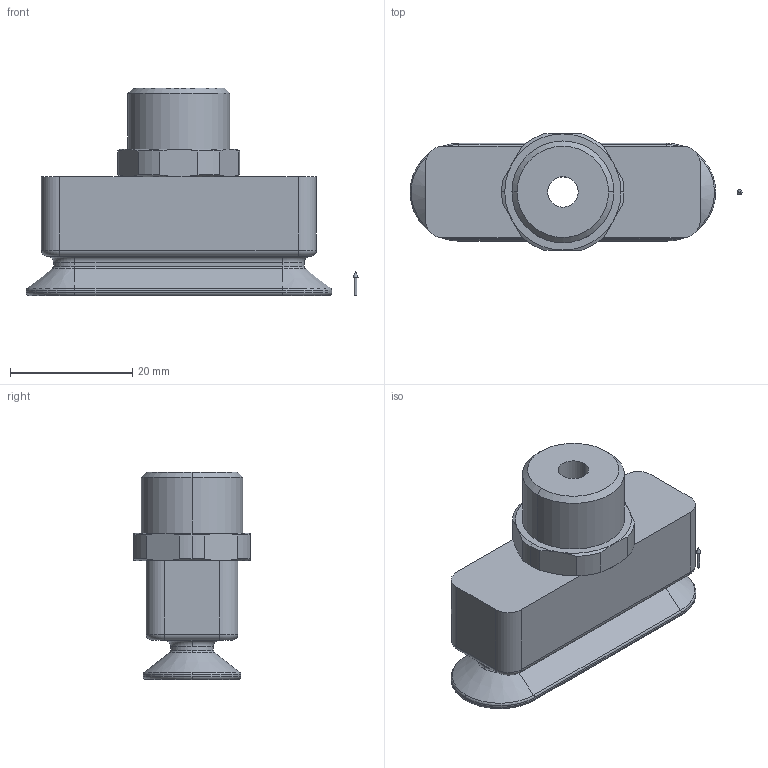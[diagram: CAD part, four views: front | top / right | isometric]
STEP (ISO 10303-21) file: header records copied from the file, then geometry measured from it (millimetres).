
FILE_DESCRIPTION(('STEP AP214'),'1');
FILE_NAME('10_01_05_00524.stp','2020-10-24T00:37:06',('TraceParts'),('TraceParts S.A.'),'Spatial InterOp 3D',' ',' ');
FILE_SCHEMA(('AUTOMOTIVE_DESIGN { 1 0 10303 214 1 1 1 1 }'));
Length unit declared in the file: millimetre
Products named in the file (1): 10_01_05_00524_1
Bounding box: 54.3 x 19 x 34 mm (x, y, z)
Volume: 12973.8 mm3; surface area: 5521.3 mm2
Topology: 2 solids, 2 shells, 121 faces, 274 edges, 157 vertices
Faces by surface type: cylinder 38, plane 33, cone 26, torus 24
Entity records: 4316 total; most frequent: DIRECTION 640, CARTESIAN_POINT 600, ORIENTED_EDGE 544, EDGE_CURVE 272, AXIS2_PLACEMENT_3D 269, VERTEX_POINT 157, CIRCLE 146, EDGE_LOOP 125
